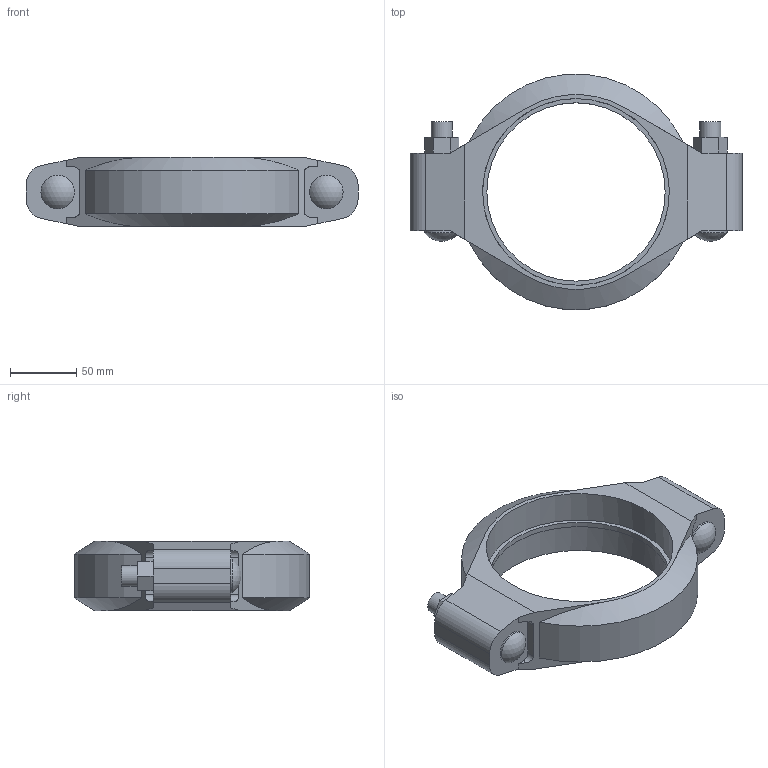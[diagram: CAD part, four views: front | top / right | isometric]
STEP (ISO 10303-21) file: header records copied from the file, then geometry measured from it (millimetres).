
FILE_DESCRIPTION(/* description */ ('VIC COUPLING STYLE 07 RIGID','CAx-IF Rec.Pracs.---Representation and Presentation of Product Manufacturing Information (PMI)---4.0---2014-10-13'),/* implementation_level */ '2;1');
FILE_NAME(/* name */ 'C:\Users\kkamble\Desktop\KIRAN\2022\Updated Couplings\007\Victaulic_IPS_Coupling Rigid_Style 07 (OGS)\Victaulic_IPS_Coupling Rigid_Style 07 (OGS)_5 (125).stp',/* time_stamp */ '2022-03-25T09:56:47+05:00',/* author */ ('jheald'),/* organization */ ('Victaulic'),/* preprocessor_version */ 'ST-DEVELOPER v17.2',/* originating_system */ 'Autodesk Inventor 2019',/* authorisation */ '');
FILE_SCHEMA (('AP242_MANAGED_MODEL_BASED_3D_ENGINEERING_MIM_LF { 1 0 10303 442 1 1 4 }'));
Length unit declared in the file: inch
Products named in the file (1): 07-05.0
Bounding box: 251.21 x 177.88 x 52.58 mm (x, y, z)
Volume: 640368.7 mm3; surface area: 100519.7 mm2
Topology: 1 solids, 3 shells, 87 faces, 239 edges, 162 vertices
Faces by surface type: plane 54, cylinder 27, cone 4, sphere 2
Full cylindrical faces by diameter (mm): 15.875 x4, 25.4 x2, 134.95 x1, 141.3 x2
Entity records: 3036 total; most frequent: CARTESIAN_POINT 522, DIRECTION 507, ORIENTED_EDGE 478, EDGE_CURVE 239, AXIS2_PLACEMENT_3D 175, VERTEX_POINT 162, LINE 157, VECTOR 157
